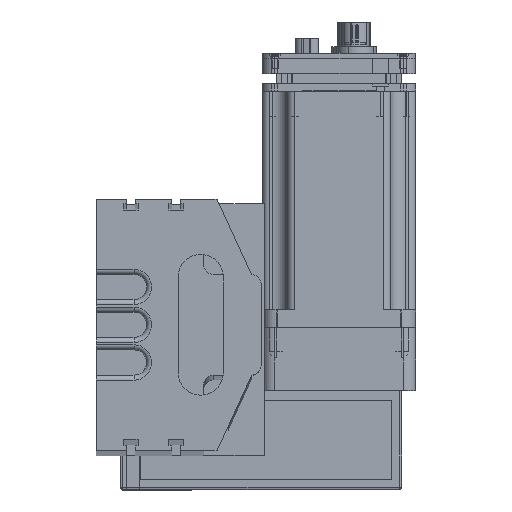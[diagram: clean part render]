
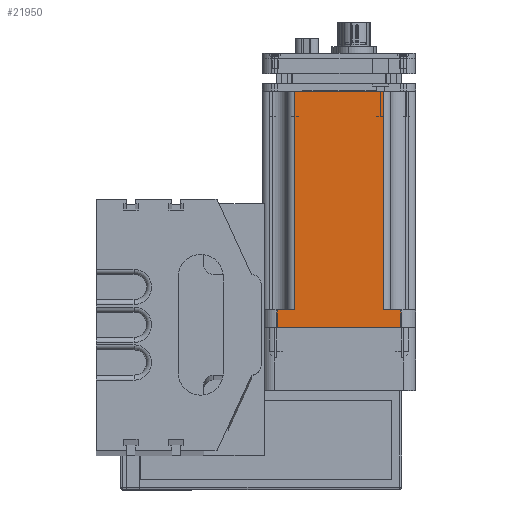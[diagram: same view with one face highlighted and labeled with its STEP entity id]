
A CAD part, top view. The second image highlights one B-rep face of the part: STEP entity #21950.
In plain terms, the highlighted planar face has unit normal (0, 0, 1).
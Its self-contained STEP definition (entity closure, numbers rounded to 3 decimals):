
#14295 = CARTESIAN_POINT ( 'NONE',  ( -24.5, 7., 30.5 ) ) ;
#14365 = CARTESIAN_POINT ( 'NONE',  ( -17.5, 7., 30.5 ) ) ;
#14373 = VECTOR ( 'NONE', #14461, 1000. ) ;
#14461 = DIRECTION ( 'NONE',  ( 1., 0., 0. ) ) ;
#14474 = CARTESIAN_POINT ( 'NONE',  ( -24.5, 7., 30.5 ) ) ;
#14476 = LINE ( 'NONE', #14474, #14373 ) ;
#15007 = CARTESIAN_POINT ( 'NONE',  ( -24.5, 0., 30.5 ) ) ;
#15203 = CARTESIAN_POINT ( 'NONE',  ( -24.5, 7., 30.5 ) ) ;
#15204 = LINE ( 'NONE', #15203, #15333 ) ;
#15332 = DIRECTION ( 'NONE',  ( 0., 1., 0. ) ) ;
#15333 = VECTOR ( 'NONE', #15332, 1000. ) ;
#16781 = DIRECTION ( 'NONE',  ( -1., 0., 0. ) ) ;
#16783 = DIRECTION ( 'NONE',  ( 0., 0., -1. ) ) ;
#16804 = FACE_OUTER_BOUND ( 'NONE', #21937, .T. ) ;
#16826 = PLANE ( 'NONE',  #16834 ) ;
#16834 = AXIS2_PLACEMENT_3D ( 'NONE', #16836, #16783, #16781 ) ;
#16836 = CARTESIAN_POINT ( 'NONE',  ( -24.5, 7., 30.5 ) ) ;
#16911 = CARTESIAN_POINT ( 'NONE',  ( 24.5, 0., 30.5 ) ) ;
#17003 = DIRECTION ( 'NONE',  ( 1., 0., 0. ) ) ;
#17005 = VECTOR ( 'NONE', #17003, 1000. ) ;
#17010 = LINE ( 'NONE', #17127, #17125 ) ;
#17015 = LINE ( 'NONE', #17031, #17005 ) ;
#17020 = CARTESIAN_POINT ( 'NONE',  ( 17.5, 7., 30.5 ) ) ;
#17031 = CARTESIAN_POINT ( 'NONE',  ( -24.5, 0., 30.5 ) ) ;
#17047 = LINE ( 'NONE', #17132, #17130 ) ;
#17061 = CARTESIAN_POINT ( 'NONE',  ( -17.5, 7., 30.5 ) ) ;
#17063 = DIRECTION ( 'NONE',  ( 1., 0., 0. ) ) ;
#17064 = VECTOR ( 'NONE', #17063, 1000. ) ;
#17072 = LINE ( 'NONE', #17061, #17183 ) ;
#17087 = CARTESIAN_POINT ( 'NONE',  ( 26.5, 94., 30.5 ) ) ;
#17090 = VECTOR ( 'NONE', #17098, 1000. ) ;
#17092 = LINE ( 'NONE', #17087, #17064 ) ;
#17098 = DIRECTION ( 'NONE',  ( 0., -1., 0. ) ) ;
#17099 = CARTESIAN_POINT ( 'NONE',  ( 17.5, 95.35, 30.5 ) ) ;
#17102 = CARTESIAN_POINT ( 'NONE',  ( 17.5, 94., 30.5 ) ) ;
#17123 = LINE ( 'NONE', #17099, #17090 ) ;
#17124 = DIRECTION ( 'NONE',  ( 0., -1., 0. ) ) ;
#17125 = VECTOR ( 'NONE', #17124, 1000. ) ;
#17127 = CARTESIAN_POINT ( 'NONE',  ( 24.5, 7., 30.5 ) ) ;
#17129 = DIRECTION ( 'NONE',  ( 1., 0., 0. ) ) ;
#17130 = VECTOR ( 'NONE', #17129, 1000. ) ;
#17132 = CARTESIAN_POINT ( 'NONE',  ( -24.5, 7., 30.5 ) ) ;
#17174 = CARTESIAN_POINT ( 'NONE',  ( -17.5, 94., 30.5 ) ) ;
#17182 = DIRECTION ( 'NONE',  ( 0., 1., 0. ) ) ;
#17183 = VECTOR ( 'NONE', #17182, 1000. ) ;
#17187 = CARTESIAN_POINT ( 'NONE',  ( 24.5, 7., 30.5 ) ) ;
#20926 = VERTEX_POINT ( 'NONE', #14295 ) ;
#20951 = VERTEX_POINT ( 'NONE', #14365 ) ;
#20963 = EDGE_CURVE ( 'NONE', #20926, #20951, #14476, .T. ) ;
#21243 = VERTEX_POINT ( 'NONE', #15007 ) ;
#21340 = EDGE_CURVE ( 'NONE', #21243, #20926, #15204, .T. ) ;
#21937 = EDGE_LOOP ( 'NONE', ( #22006, #21988, #21952, #22041, #22052, #21941, #21951, #22050 ) ) ;
#21941 = ORIENTED_EDGE ( 'NONE', *, *, #22055, .F. ) ;
#21950 = ADVANCED_FACE ( 'NONE', ( #16804 ), #16826, .F. ) ;
#21951 = ORIENTED_EDGE ( 'NONE', *, *, #22060, .F. ) ;
#21952 = ORIENTED_EDGE ( 'NONE', *, *, #21340, .F. ) ;
#21966 = VERTEX_POINT ( 'NONE', #16911 ) ;
#21988 = ORIENTED_EDGE ( 'NONE', *, *, #20963, .F. ) ;
#22006 = ORIENTED_EDGE ( 'NONE', *, *, #22078, .F. ) ;
#22034 = EDGE_CURVE ( 'NONE', #21243, #21966, #17015, .T. ) ;
#22036 = VERTEX_POINT ( 'NONE', #17020 ) ;
#22041 = ORIENTED_EDGE ( 'NONE', *, *, #22034, .T. ) ;
#22045 = EDGE_CURVE ( 'NONE', #22081, #21966, #17010, .T. ) ;
#22050 = ORIENTED_EDGE ( 'NONE', *, *, #22069, .F. ) ;
#22052 = ORIENTED_EDGE ( 'NONE', *, *, #22045, .F. ) ;
#22055 = EDGE_CURVE ( 'NONE', #22036, #22081, #17047, .T. ) ;
#22060 = EDGE_CURVE ( 'NONE', #22063, #22036, #17123, .T. ) ;
#22063 = VERTEX_POINT ( 'NONE', #17102 ) ;
#22069 = EDGE_CURVE ( 'NONE', #22084, #22063, #17092, .T. ) ;
#22078 = EDGE_CURVE ( 'NONE', #20951, #22084, #17072, .T. ) ;
#22081 = VERTEX_POINT ( 'NONE', #17187 ) ;
#22084 = VERTEX_POINT ( 'NONE', #17174 ) ;
